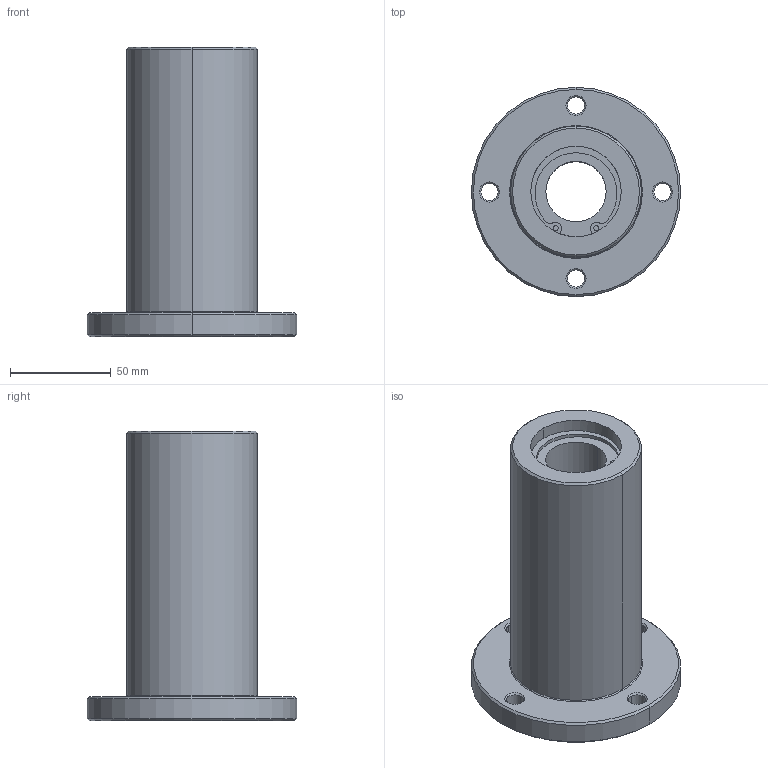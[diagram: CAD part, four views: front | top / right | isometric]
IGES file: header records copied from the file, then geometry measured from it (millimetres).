
Start section: 3D InterOp IGES (Version 21 0 1), Spatial Corp. Copyright (c) 1999-2007.
Global section: file name: LCFD-30AVUU.igs; native system: Spatial Corp.; preprocessor: 3D InterOp GENERIC/IGES 3.0; author: Noname; organization: Noname; date: 20220517.163457; units: millimetre
Bounding box: 104 x 104 x 144 mm (x, y, z)
Surface area: 61066.4 mm2 (no closed solid volume)
Topology: 0 solids, 0 shells, 88 faces, 434 edges, 434 vertices
Faces by surface type: revolution 72, extrusion 16
